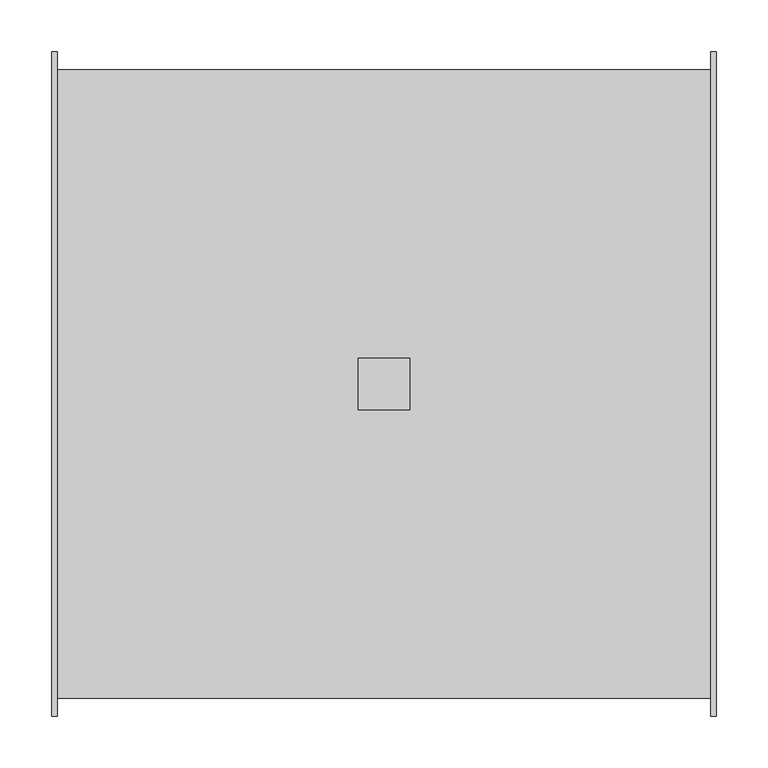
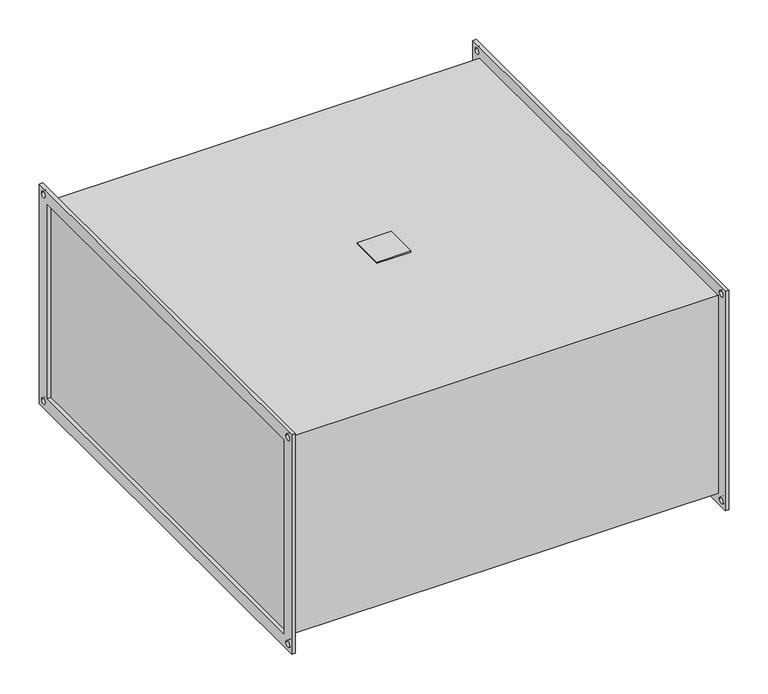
"""IFC4 building model written with IfcOpenShell, lengths in millimetres: damper geometry, KORF_Фильтр_Карманный_FKR : FKR 60-30  EU3."""

from ifc_helpers import new_model, si_unit, point, frame, frame_2d, origin, place, context, project, spatial, polyline, circle_curve, trimmed, segment, composite_curve, outline, extrude, source, transform, mapped, element, save


def damper_581b1da7(model_context):
    return source(origin(), model_context, "Body", "SweptSolid", [
        extrude(outline(polyline([(295.0, -25.0), (295.0, 25.0), (345.0, 25.0), (345.0, -25.0), (295.0, -25.0)])), frame((0.0, 0.0, 153.0), z_axis=(0.0, 0.0, 1.0), x_axis=(1.0, 0.0, 0.0)), (0.0, 0.0, 1.0), 2.0),
        extrude(outline(polyline([(-320.0, 170.0), (320.0, 170.0), (320.0, -170.0), (-320.0, -170.0), (-320.0, 170.0)]), holes=[polyline([(-300.0, 150.0), (-300.0, -150.0), (300.0, -150.0), (300.0, 150.0), (-300.0, 150.0)]), composite_curve([segment(trimmed(circle_curve(frame_2d((310.0, 160.0)), 4.5), [point((305.5, 160.0))], [point((314.5, 160.0))], True, "CARTESIAN"), True, "CONTINUOUS"), segment(trimmed(circle_curve(frame_2d((310.0, 160.0)), 4.5), [point((314.5, 160.0))], [point((305.5, 160.0))], True, "CARTESIAN"), True, "CONTINUOUS")], self_intersect=False), composite_curve([segment(trimmed(circle_curve(frame_2d((-310.0, 160.0)), 4.5), [point((-314.5, 160.0))], [point((-305.5, 160.0))], True, "CARTESIAN"), True, "CONTINUOUS"), segment(trimmed(circle_curve(frame_2d((-310.0, 160.0)), 4.5), [point((-305.5, 160.0))], [point((-314.5, 160.0))], True, "CARTESIAN"), True, "CONTINUOUS")], self_intersect=False), composite_curve([segment(trimmed(circle_curve(frame_2d((-310.0, -160.0)), 4.5), [point((-314.5, -160.0))], [point((-305.5, -160.0))], True, "CARTESIAN"), True, "CONTINUOUS"), segment(trimmed(circle_curve(frame_2d((-310.0, -160.0)), 4.5), [point((-305.5, -160.0))], [point((-314.5, -160.0))], True, "CARTESIAN"), True, "CONTINUOUS")], self_intersect=False), composite_curve([segment(trimmed(circle_curve(frame_2d((310.0, -160.0)), 4.5), [point((305.5, -160.0))], [point((314.5, -160.0))], True, "CARTESIAN"), True, "CONTINUOUS"), segment(trimmed(circle_curve(frame_2d((310.0, -160.0)), 4.5), [point((314.5, -160.0))], [point((305.5, -160.0))], True, "CARTESIAN"), True, "CONTINUOUS")], self_intersect=False)]), frame((635.0, 0.0, 0.0), z_axis=(1.0, 0.0, 0.0), x_axis=(0.0, 1.0, 0.0)), (0.0, 0.0, 1.0), 5.0),
        extrude(outline(polyline([(-320.0, 170.0), (320.0, 170.0), (320.0, -170.0), (-320.0, -170.0), (-320.0, 170.0)]), holes=[polyline([(-300.0, 150.0), (-300.0, -150.0), (300.0, -150.0), (300.0, 150.0), (-300.0, 150.0)]), composite_curve([segment(trimmed(circle_curve(frame_2d((310.0, 160.0)), 4.5), [point((305.5, 160.0))], [point((314.5, 160.0))], True, "CARTESIAN"), True, "CONTINUOUS"), segment(trimmed(circle_curve(frame_2d((310.0, 160.0)), 4.5), [point((314.5, 160.0))], [point((305.5, 160.0))], True, "CARTESIAN"), True, "CONTINUOUS")], self_intersect=False), composite_curve([segment(trimmed(circle_curve(frame_2d((-310.0, 160.0)), 4.5), [point((-314.5, 160.0))], [point((-305.5, 160.0))], True, "CARTESIAN"), True, "CONTINUOUS"), segment(trimmed(circle_curve(frame_2d((-310.0, 160.0)), 4.5), [point((-305.5, 160.0))], [point((-314.5, 160.0))], True, "CARTESIAN"), True, "CONTINUOUS")], self_intersect=False), composite_curve([segment(trimmed(circle_curve(frame_2d((-310.0, -160.0)), 4.5), [point((-314.5, -160.0))], [point((-305.5, -160.0))], True, "CARTESIAN"), True, "CONTINUOUS"), segment(trimmed(circle_curve(frame_2d((-310.0, -160.0)), 4.5), [point((-305.5, -160.0))], [point((-314.5, -160.0))], True, "CARTESIAN"), True, "CONTINUOUS")], self_intersect=False), composite_curve([segment(trimmed(circle_curve(frame_2d((310.0, -160.0)), 4.5), [point((305.5, -160.0))], [point((314.5, -160.0))], True, "CARTESIAN"), True, "CONTINUOUS"), segment(trimmed(circle_curve(frame_2d((310.0, -160.0)), 4.5), [point((314.5, -160.0))], [point((305.5, -160.0))], True, "CARTESIAN"), True, "CONTINUOUS")], self_intersect=False)]), frame((0.0, 0.0, 0.0), z_axis=(1.0, 0.0, 0.0), x_axis=(0.0, 1.0, 0.0)), (0.0, 0.0, 1.0), 5.0),
        extrude(outline(polyline([(635.0, 303.0), (635.0, -303.0), (5.0, -303.0), (5.0, 303.0), (635.0, 303.0)])), frame((0.0, 0.0, -153.0), z_axis=(0.0, 0.0, 1.0), x_axis=(1.0, 0.0, 0.0)), (0.0, 0.0, 1.0), 306.0),
    ])


if __name__ == "__main__":
    model = new_model("IFC4")
    model_context = context("Model", 3, world=origin())
    ifc_project = project(units=[si_unit("LENGTHUNIT", "METRE", prefix="MILLI")], contexts=[model_context])
    site = spatial("IfcSite", under=ifc_project)
    building = spatial("IfcBuilding", under=site)
    placement = place(None, origin())
    damper_shape = damper_581b1da7(model_context)
    element("IfcDamper", 1, ObjectType="KORF_Фильтр_Карманный_FKR : FKR 60-30  EU3", at=placement, inside=building, context=model_context, shape_type="MappedRepresentation", body=[
        mapped(damper_shape, transform((0.0, 0.0, 0.0), x_axis=(1.0, 0.0, 0.0), y_axis=(0.0, 1.0, 0.0), z_axis=(0.0, 0.0, 1.0))),
    ])
    save(model, "model.ifc")
